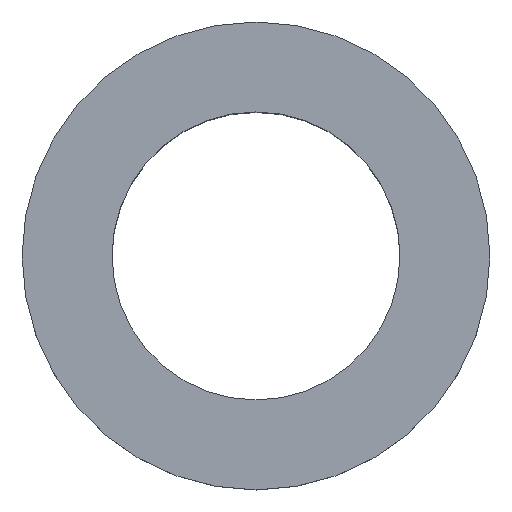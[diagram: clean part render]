
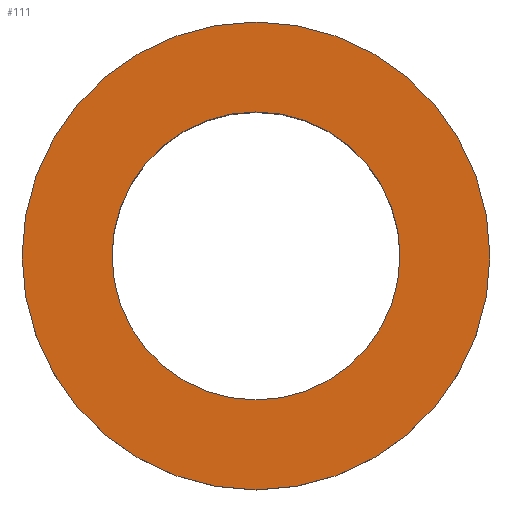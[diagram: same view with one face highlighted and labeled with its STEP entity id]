
A CAD part, top view. The second image highlights one B-rep face of the part: STEP entity #111.
In plain terms, the highlighted planar face has unit normal (0, 0, 1).
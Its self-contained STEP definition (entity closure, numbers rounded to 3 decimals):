
#98=PLANE('',#245);
#102=FACE_BOUND('',#133,.T.);
#103=FACE_BOUND('',#134,.T.);
#111=ADVANCED_FACE('',(#102,#103),#98,.T.);
#133=EDGE_LOOP('',(#171,#172));
#134=EDGE_LOOP('',(#173,#174));
#145=CIRCLE('',#239,8.);
#146=CIRCLE('',#241,8.);
#147=CIRCLE('',#243,13.);
#148=CIRCLE('',#244,13.);
#171=ORIENTED_EDGE('',*,*,#211,.F.);
#172=ORIENTED_EDGE('',*,*,#212,.F.);
#173=ORIENTED_EDGE('',*,*,#210,.T.);
#174=ORIENTED_EDGE('',*,*,#208,.T.);
#193=VERTEX_POINT('',#320);
#194=VERTEX_POINT('',#322);
#195=VERTEX_POINT('',#328);
#196=VERTEX_POINT('',#329);
#208=EDGE_CURVE('',#194,#193,#145,.T.);
#210=EDGE_CURVE('',#193,#194,#146,.T.);
#211=EDGE_CURVE('',#195,#196,#147,.T.);
#212=EDGE_CURVE('',#196,#195,#148,.T.);
#239=AXIS2_PLACEMENT_3D('',#321,#274,#275);
#241=AXIS2_PLACEMENT_3D('',#325,#279,#280);
#243=AXIS2_PLACEMENT_3D('',#327,#283,#284);
#244=AXIS2_PLACEMENT_3D('',#330,#285,#286);
#245=AXIS2_PLACEMENT_3D('',#331,#287,#288);
#274=DIRECTION('',(0.,0.,-1.));
#275=DIRECTION('',(0.,1.,0.));
#279=DIRECTION('',(0.,0.,-1.));
#280=DIRECTION('',(0.,-1.,0.));
#283=DIRECTION('',(0.,0.,-1.));
#284=DIRECTION('',(0.,1.,0.));
#285=DIRECTION('',(0.,0.,-1.));
#286=DIRECTION('',(0.,-1.,0.));
#287=DIRECTION('',(0.,0.,1.));
#288=DIRECTION('',(0.,-1.,0.));
#320=CARTESIAN_POINT('',(-8.,0.,3.));
#321=CARTESIAN_POINT('',(0.,0.,3.));
#322=CARTESIAN_POINT('',(8.,0.,3.));
#325=CARTESIAN_POINT('',(0.,0.,3.));
#327=CARTESIAN_POINT('',(0.,0.,3.));
#328=CARTESIAN_POINT('',(13.,0.,3.));
#329=CARTESIAN_POINT('',(-13.,0.,3.));
#330=CARTESIAN_POINT('',(0.,0.,3.));
#331=CARTESIAN_POINT('',(0.,0.,3.));
